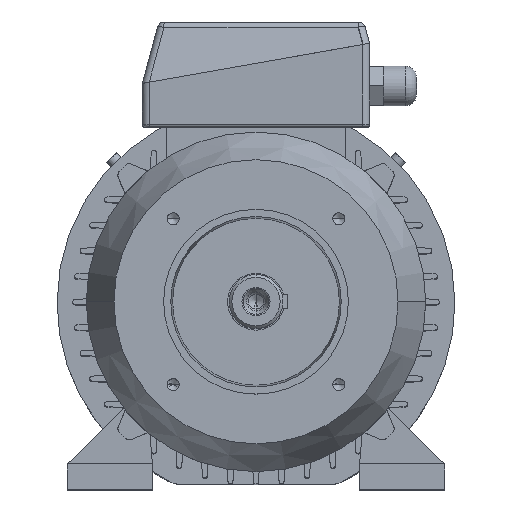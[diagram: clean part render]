
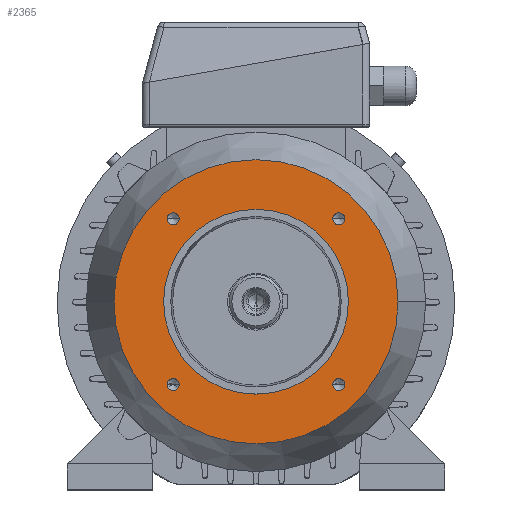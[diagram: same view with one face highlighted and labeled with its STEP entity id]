
A CAD part, top view. The second image highlights one B-rep face of the part: STEP entity #2365.
In plain terms, the highlighted planar face has unit normal (0, 0, 1).
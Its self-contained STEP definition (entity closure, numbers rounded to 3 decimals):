
#16464 = ORIENTED_EDGE ( 'NONE', *, *, #3413, .F. ) ;
#16634 = ORIENTED_EDGE ( 'NONE', *, *, #16109, .F. ) ;
#318 = CARTESIAN_POINT ( 'NONE',  ( 54.086, -58.336, 58. ) ) ;
#16731 = CARTESIAN_POINT ( 'NONE',  ( 62.586, -58.336, 58. ) ) ;
#423 = EDGE_CURVE ( 'NONE', #3167, #4005, #12538, .T. ) ;
#16868 = CIRCLE ( 'NONE', #16869, 4.25 ) ;
#16869 = AXIS2_PLACEMENT_3D ( 'NONE', #16870, #16871, #16872 ) ;
#16870 = CARTESIAN_POINT ( 'NONE',  ( 58.336, -58.336, 58. ) ) ;
#16871 = DIRECTION ( 'NONE',  ( 0., 0., 1. ) ) ;
#16872 = DIRECTION ( 'NONE',  ( 1., 0., 0. ) ) ;
#512 = ORIENTED_EDGE ( 'NONE', *, *, #10424, .T. ) ;
#702 = EDGE_LOOP ( 'NONE', ( #512, #5153 ) ) ;
#1659 = EDGE_CURVE ( 'NONE', #12891, #12651, #13206, .T. ) ;
#1973 = VERTEX_POINT ( 'NONE', #13330 ) ;
#1998 = CARTESIAN_POINT ( 'NONE',  ( -62.586, -58.336, 58. ) ) ;
#2223 = VERTEX_POINT ( 'NONE', #13923 ) ;
#2303 = EDGE_LOOP ( 'NONE', ( #16634, #15966 ) ) ;
#2365 = ADVANCED_FACE ( 'NONE', ( #16278, #16282, #16283, #16284, #16285, #16286 ), #16287, .F. ) ;
#2469 = EDGE_CURVE ( 'NONE', #2223, #1973, #16334, .T. ) ;
#3167 = VERTEX_POINT ( 'NONE', #16731 ) ;
#3179 = CARTESIAN_POINT ( 'NONE',  ( 62.586, 58.336, 58. ) ) ;
#3322 = CIRCLE ( 'NONE', #3323, 4.25 ) ;
#3323 = AXIS2_PLACEMENT_3D ( 'NONE', #3324, #3325, #3330 ) ;
#3324 = CARTESIAN_POINT ( 'NONE',  ( 58.336, 58.336, 58. ) ) ;
#3325 = DIRECTION ( 'NONE',  ( 0., 0., 1. ) ) ;
#3330 = DIRECTION ( 'NONE',  ( 1., 0., 0. ) ) ;
#3413 = EDGE_CURVE ( 'NONE', #4005, #3167, #16868, .T. ) ;
#3816 = CIRCLE ( 'NONE', #3817, 4.25 ) ;
#3817 = AXIS2_PLACEMENT_3D ( 'NONE', #3823, #3824, #3825 ) ;
#3823 = CARTESIAN_POINT ( 'NONE',  ( 58.336, 58.336, 58. ) ) ;
#3824 = DIRECTION ( 'NONE',  ( 0., 0., 1. ) ) ;
#3825 = DIRECTION ( 'NONE',  ( 1., 0., 0. ) ) ;
#4005 = VERTEX_POINT ( 'NONE', #318 ) ;
#4185 = CARTESIAN_POINT ( 'NONE',  ( 54.086, 58.336, 58. ) ) ;
#4322 = CIRCLE ( 'NONE', #4323, 100. ) ;
#4323 = AXIS2_PLACEMENT_3D ( 'NONE', #4324, #4325, #4329 ) ;
#4324 = CARTESIAN_POINT ( 'NONE',  ( 0., 0., 58. ) ) ;
#4325 = DIRECTION ( 'NONE',  ( 0., 0., 1. ) ) ;
#4329 = DIRECTION ( 'NONE',  ( 1., 0., 0. ) ) ;
#5153 = ORIENTED_EDGE ( 'NONE', *, *, #2469, .T. ) ;
#6404 = CARTESIAN_POINT ( 'NONE',  ( -54.086, 58.336, 58. ) ) ;
#6513 = VERTEX_POINT ( 'NONE', #1998 ) ;
#6550 = CIRCLE ( 'NONE', #6551, 4.25 ) ;
#6551 = AXIS2_PLACEMENT_3D ( 'NONE', #6559, #6560, #6561 ) ;
#6559 = CARTESIAN_POINT ( 'NONE',  ( -58.336, 58.336, 58. ) ) ;
#6560 = DIRECTION ( 'NONE',  ( 0., 0., 1. ) ) ;
#6561 = DIRECTION ( 'NONE',  ( 1., 0., 0. ) ) ;
#7085 = CARTESIAN_POINT ( 'NONE',  ( -62.586, 58.336, 58. ) ) ;
#7615 = ORIENTED_EDGE ( 'NONE', *, *, #11524, .F. ) ;
#7756 = CIRCLE ( 'NONE', #7757, 4.25 ) ;
#7757 = AXIS2_PLACEMENT_3D ( 'NONE', #7758, #7759, #7760 ) ;
#7758 = CARTESIAN_POINT ( 'NONE',  ( -58.336, -58.336, 58. ) ) ;
#7759 = DIRECTION ( 'NONE',  ( 0., 0., 1. ) ) ;
#7760 = DIRECTION ( 'NONE',  ( 1., 0., 0. ) ) ;
#7848 = CARTESIAN_POINT ( 'NONE',  ( -54.086, -58.336, 58. ) ) ;
#8527 = CARTESIAN_POINT ( 'NONE',  ( -65., 0., 58. ) ) ;
#8613 = CIRCLE ( 'NONE', #8614, 65. ) ;
#8614 = AXIS2_PLACEMENT_3D ( 'NONE', #8615, #8616, #8617 ) ;
#8615 = CARTESIAN_POINT ( 'NONE',  ( 0., 0., 58. ) ) ;
#8616 = DIRECTION ( 'NONE',  ( 0., 0., 1. ) ) ;
#8617 = DIRECTION ( 'NONE',  ( 1., 0., 0. ) ) ;
#8802 = VERTEX_POINT ( 'NONE', #3179 ) ;
#9053 = EDGE_CURVE ( 'NONE', #10254, #8802, #3322, .T. ) ;
#9256 = CARTESIAN_POINT ( 'NONE',  ( 65., 0., 58. ) ) ;
#9916 = ORIENTED_EDGE ( 'NONE', *, *, #1659, .F. ) ;
#10110 = EDGE_LOOP ( 'NONE', ( #9916, #10774 ) ) ;
#10254 = VERTEX_POINT ( 'NONE', #4185 ) ;
#10262 = CIRCLE ( 'NONE', #10263, 4.25 ) ;
#10263 = AXIS2_PLACEMENT_3D ( 'NONE', #10264, #10265, #10266 ) ;
#10264 = CARTESIAN_POINT ( 'NONE',  ( -58.336, -58.336, 58. ) ) ;
#10265 = DIRECTION ( 'NONE',  ( 0., 0., 1. ) ) ;
#10266 = DIRECTION ( 'NONE',  ( 1., 0., 0. ) ) ;
#10424 = EDGE_CURVE ( 'NONE', #1973, #2223, #4322, .T. ) ;
#10774 = ORIENTED_EDGE ( 'NONE', *, *, #12698, .F. ) ;
#10811 = CIRCLE ( 'NONE', #10812, 4.25 ) ;
#10812 = AXIS2_PLACEMENT_3D ( 'NONE', #10813, #10814, #10820 ) ;
#10813 = CARTESIAN_POINT ( 'NONE',  ( -58.336, 58.336, 58. ) ) ;
#10814 = DIRECTION ( 'NONE',  ( 0., 0., 1. ) ) ;
#10820 = DIRECTION ( 'NONE',  ( 1., 0., 0. ) ) ;
#11184 = EDGE_LOOP ( 'NONE', ( #12142, #7615 ) ) ;
#11472 = VERTEX_POINT ( 'NONE', #6404 ) ;
#11524 = EDGE_CURVE ( 'NONE', #11755, #11472, #6550, .T. ) ;
#11581 = EDGE_LOOP ( 'NONE', ( #15417, #16464 ) ) ;
#11607 = ORIENTED_EDGE ( 'NONE', *, *, #12010, .F. ) ;
#11755 = VERTEX_POINT ( 'NONE', #7085 ) ;
#12010 = EDGE_CURVE ( 'NONE', #6513, #12048, #7756, .T. ) ;
#12048 = VERTEX_POINT ( 'NONE', #7848 ) ;
#12142 = ORIENTED_EDGE ( 'NONE', *, *, #15924, .F. ) ;
#12538 = CIRCLE ( 'NONE', #12539, 4.25 ) ;
#12539 = AXIS2_PLACEMENT_3D ( 'NONE', #12540, #12541, #12542 ) ;
#12540 = CARTESIAN_POINT ( 'NONE',  ( 58.336, -58.336, 58. ) ) ;
#12541 = DIRECTION ( 'NONE',  ( 0., 0., 1. ) ) ;
#12542 = DIRECTION ( 'NONE',  ( 1., 0., 0. ) ) ;
#12599 = EDGE_LOOP ( 'NONE', ( #15031, #11607 ) ) ;
#12651 = VERTEX_POINT ( 'NONE', #8527 ) ;
#12698 = EDGE_CURVE ( 'NONE', #12651, #12891, #8613, .T. ) ;
#12891 = VERTEX_POINT ( 'NONE', #9256 ) ;
#13206 = CIRCLE ( 'NONE', #13207, 65. ) ;
#13207 = AXIS2_PLACEMENT_3D ( 'NONE', #13208, #13209, #13210 ) ;
#13208 = CARTESIAN_POINT ( 'NONE',  ( 0., 0., 58. ) ) ;
#13209 = DIRECTION ( 'NONE',  ( 0., 0., 1. ) ) ;
#13210 = DIRECTION ( 'NONE',  ( 1., 0., 0. ) ) ;
#13330 = CARTESIAN_POINT ( 'NONE',  ( -100., 0., 58. ) ) ;
#13923 = CARTESIAN_POINT ( 'NONE',  ( 100., 0., 58. ) ) ;
#14932 = EDGE_CURVE ( 'NONE', #12048, #6513, #10262, .T. ) ;
#15031 = ORIENTED_EDGE ( 'NONE', *, *, #14932, .F. ) ;
#15417 = ORIENTED_EDGE ( 'NONE', *, *, #423, .F. ) ;
#15924 = EDGE_CURVE ( 'NONE', #11472, #11755, #10811, .T. ) ;
#15966 = ORIENTED_EDGE ( 'NONE', *, *, #9053, .F. ) ;
#16109 = EDGE_CURVE ( 'NONE', #8802, #10254, #3816, .T. ) ;
#16278 = FACE_BOUND ( 'NONE', #11184, .T. ) ;
#16282 = FACE_BOUND ( 'NONE', #2303, .T. ) ;
#16283 = FACE_BOUND ( 'NONE', #12599, .T. ) ;
#16284 = FACE_BOUND ( 'NONE', #11581, .T. ) ;
#16285 = FACE_BOUND ( 'NONE', #10110, .T. ) ;
#16286 = FACE_OUTER_BOUND ( 'NONE', #702, .T. ) ;
#16287 = PLANE ( 'NONE',  #16288 ) ;
#16288 = AXIS2_PLACEMENT_3D ( 'NONE', #16289, #16290, #16291 ) ;
#16289 = CARTESIAN_POINT ( 'NONE',  ( 0., 100., 58. ) ) ;
#16290 = DIRECTION ( 'NONE',  ( 0., 0., -1. ) ) ;
#16291 = DIRECTION ( 'NONE',  ( -1., 0., 0. ) ) ;
#16334 = CIRCLE ( 'NONE', #16335, 100. ) ;
#16335 = AXIS2_PLACEMENT_3D ( 'NONE', #16338, #16339, #16340 ) ;
#16338 = CARTESIAN_POINT ( 'NONE',  ( 0., 0., 58. ) ) ;
#16339 = DIRECTION ( 'NONE',  ( 0., 0., 1. ) ) ;
#16340 = DIRECTION ( 'NONE',  ( 1., 0., 0. ) ) ;
